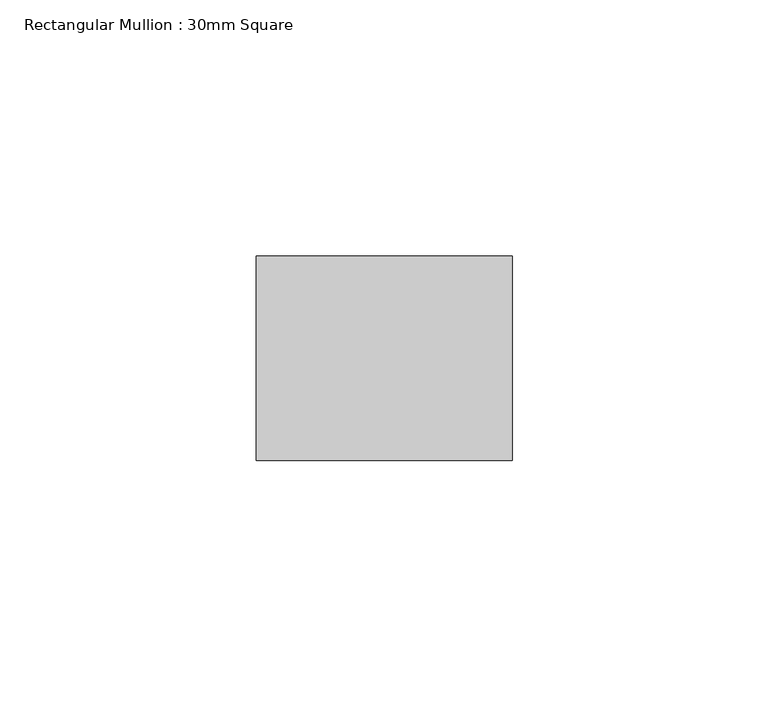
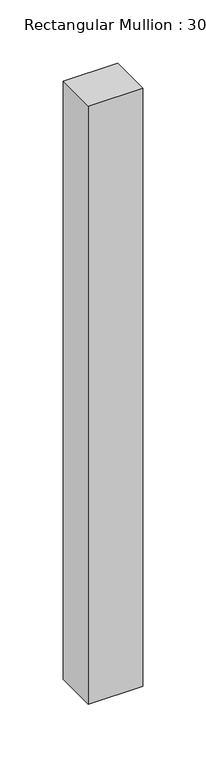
"""IFC4 building model written with IfcOpenShell, lengths in millimetres: member geometry, Rectangular Mullion : 30mm Square."""

from ifc_helpers import new_model, si_unit, frame, origin, place, context, project, spatial, polyline, outline, extrude, source, transform, mapped, element, save


def rectangular_mullion_30mm_square_f87c1b0b(model_context):
    return source(origin(), model_context, "Body", "SweptSolid", [
        extrude(outline(polyline([(25.0, 20.0), (25.0, -20.0), (-25.0, -20.0), (-25.0, 20.0), (25.0, 20.0)])), frame((0.0, 0.0, -580.0), z_axis=(0.0, 0.0, 1.0), x_axis=(1.0, 0.0, 0.0)), (0.0, 0.0, 1.0), 580.0),
    ])


if __name__ == "__main__":
    model = new_model("IFC4")
    model_context = context("Model", 3, world=origin())
    ifc_project = project(units=[si_unit("LENGTHUNIT", "METRE", prefix="MILLI")], contexts=[model_context])
    site = spatial("IfcSite", under=ifc_project)
    building = spatial("IfcBuilding", under=site)
    placement = place(None, origin())
    rectangular_mullion_30mm_square_shape = rectangular_mullion_30mm_square_f87c1b0b(model_context)
    element("IfcMember", 1, ObjectType="Rectangular Mullion : 30mm Square", at=placement, inside=building, context=model_context, shape_type="MappedRepresentation", body=[
        mapped(rectangular_mullion_30mm_square_shape, transform((0.0, 0.0, 0.0), x_axis=(1.0, 0.0, 0.0), y_axis=(0.0, 1.0, 0.0), z_axis=(0.0, 0.0, 1.0))),
    ])
    save(model, "model.ifc")
